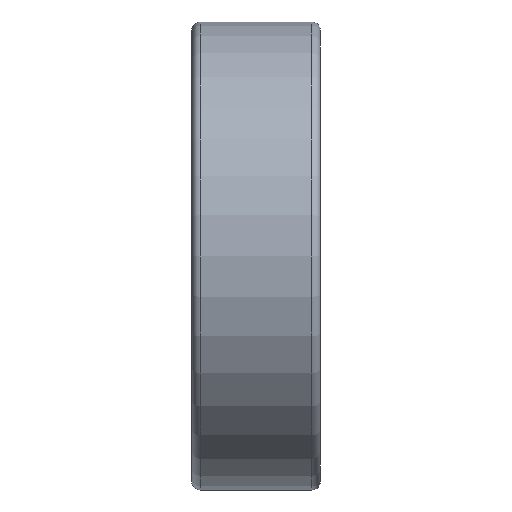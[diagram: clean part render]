
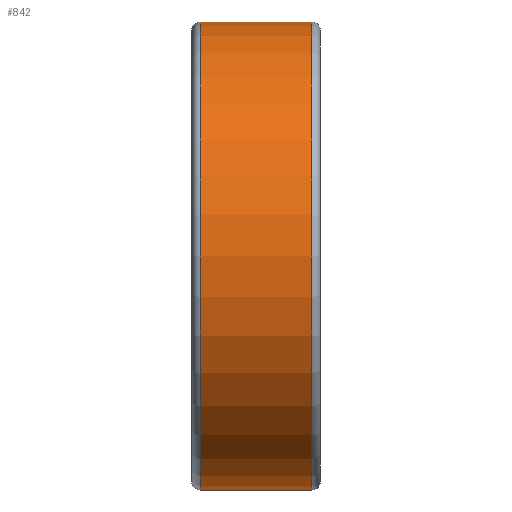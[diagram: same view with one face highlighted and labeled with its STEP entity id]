
A CAD part, front view. The second image highlights one B-rep face of the part: STEP entity #842.
In plain terms, the highlighted cylindrical face has radius 31 mm (diameter 62 mm), a full revolution.
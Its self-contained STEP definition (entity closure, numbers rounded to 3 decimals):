
#149=CYLINDRICAL_SURFACE('',#976,31.);
#163=FACE_BOUND('',#277,.T.);
#214=FACE_OUTER_BOUND('',#276,.T.);
#276=EDGE_LOOP('',(#778));
#277=EDGE_LOOP('',(#779));
#363=CIRCLE('',#974,31.);
#365=CIRCLE('',#977,31.);
#445=VERTEX_POINT('',#2263);
#447=VERTEX_POINT('',#2268);
#558=EDGE_CURVE('',#445,#445,#363,.T.);
#560=EDGE_CURVE('',#447,#447,#365,.T.);
#778=ORIENTED_EDGE('',*,*,#560,.F.);
#779=ORIENTED_EDGE('',*,*,#558,.T.);
#842=ADVANCED_FACE('',(#214,#163),#149,.T.);
#974=AXIS2_PLACEMENT_3D('',#2264,#1244,#1245);
#976=AXIS2_PLACEMENT_3D('',#2267,#1248,#1249);
#977=AXIS2_PLACEMENT_3D('',#2269,#1250,#1251);
#1244=DIRECTION('center_axis',(1.,0.,0.));
#1245=DIRECTION('ref_axis',(0.,0.,-1.));
#1248=DIRECTION('center_axis',(1.,0.,0.));
#1249=DIRECTION('ref_axis',(0.,1.,0.));
#1250=DIRECTION('center_axis',(1.,0.,0.));
#1251=DIRECTION('ref_axis',(0.,0.,-1.));
#2263=CARTESIAN_POINT('',(-7.4,31.,0.));
#2264=CARTESIAN_POINT('Origin',(-7.4,0.,0.));
#2267=CARTESIAN_POINT('Origin',(0.,0.,0.));
#2268=CARTESIAN_POINT('',(7.4,31.,0.));
#2269=CARTESIAN_POINT('Origin',(7.4,0.,0.));
